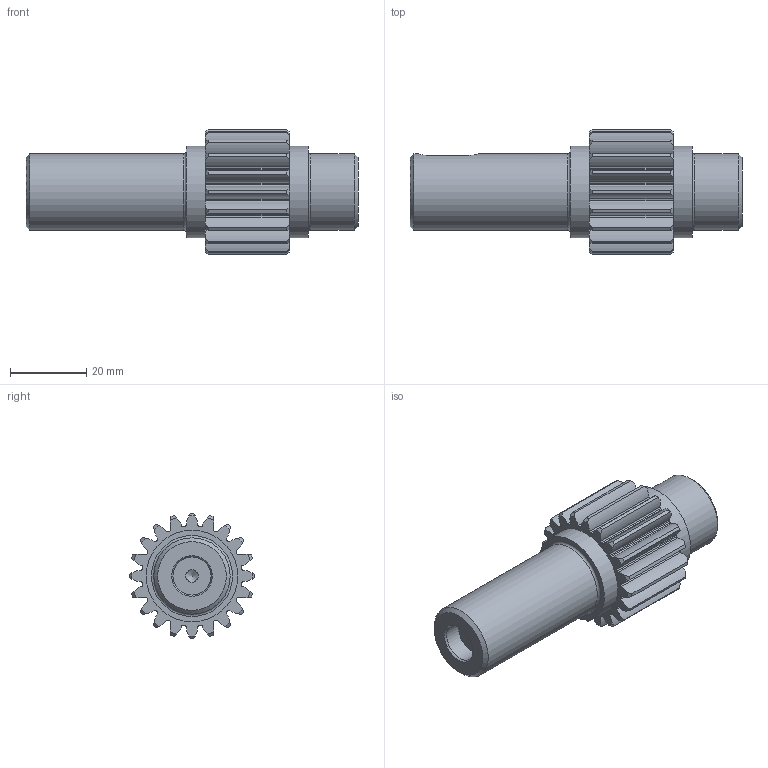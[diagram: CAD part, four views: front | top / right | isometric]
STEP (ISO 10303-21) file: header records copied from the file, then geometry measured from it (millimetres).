
FILE_DESCRIPTION(/* description */ (''),/* implementation_level */ '2;1');
FILE_NAME(/* name */ '',/* time_stamp */ '2025-11-19T16:41:58+09:00',/* author */ ('jhkim'),/* organization */ (''),/* preprocessor_version */ 'ST-DEVELOPER v20.1',/* originating_system */ 'Autodesk Inventor 2026',/* authorisation */ '');
FILE_SCHEMA (('AUTOMOTIVE_DESIGN { 1 0 10303 214 3 1 1 }'));
Length unit declared in the file: millimetre
Products named in the file (1): 기어 축
Bounding box: 87 x 33 x 33 mm (x, y, z)
Volume: 36301.2 mm3; surface area: 9840.1 mm2
Topology: 1 solids, 1 shells, 187 faces, 536 edges, 357 vertices
Faces by surface type: cylinder 129, cone 46, plane 10, torus 2
Full cylindrical faces by diameter (mm): 2 x1, 3.242 x1, 10 x1, 20 x2, 24 x2
Entity records: 6432 total; most frequent: CARTESIAN_POINT 1355, DIRECTION 1135, ORIENTED_EDGE 1068, EDGE_CURVE 534, AXIS2_PLACEMENT_3D 497, VERTEX_POINT 357, CIRCLE 309, EDGE_LOOP 195
